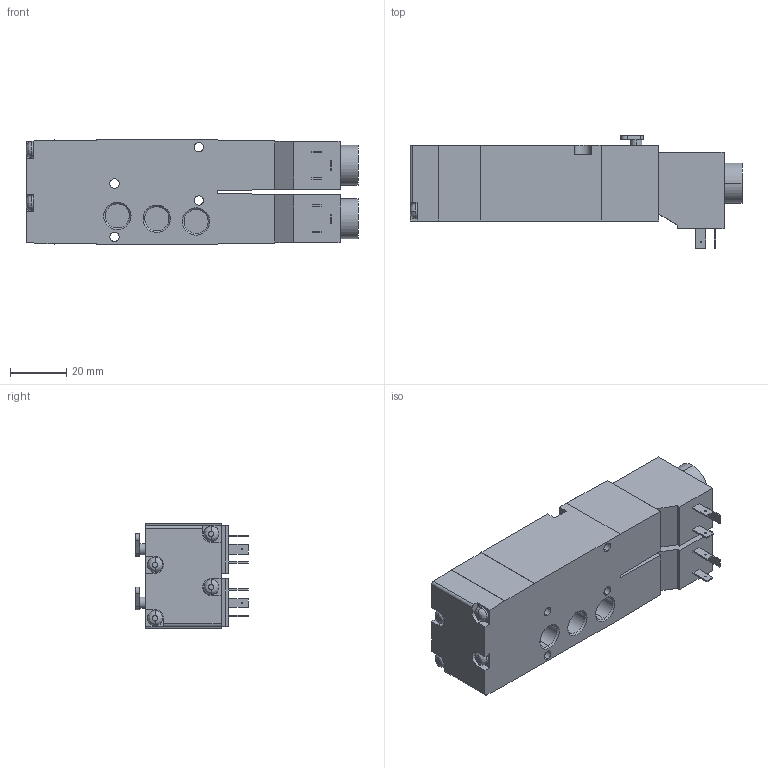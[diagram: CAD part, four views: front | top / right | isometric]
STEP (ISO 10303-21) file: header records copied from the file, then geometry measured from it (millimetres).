
FILE_DESCRIPTION (( 'STEP AP203' ), '1' );
FILE_NAME ('VB5312O-5D-01.STEP', '2021-11-26T10:49:05', ( '' ), ( '' ), 'SwSTEP 2.0', 'SolidWorks 2019', '' );
FILE_SCHEMA (( 'CONFIG_CONTROL_DESIGN' ));
Length unit declared in the file: millimetre
Products named in the file (1): VB5312O-5D-01
Bounding box: 118.1 x 40.1 x 37 mm (x, y, z)
Volume: 106307.3 mm3; surface area: 22051.9 mm2
Topology: 1 solids, 1 shells, 200 faces, 487 edges, 314 vertices
Faces by surface type: plane 107, cylinder 65, cone 20, bspline 8
Entity records: 6154 total; most frequent: CARTESIAN_POINT 1242, DIRECTION 1023, ORIENTED_EDGE 974, EDGE_CURVE 487, AXIS2_PLACEMENT_3D 351, VECTOR 321, LINE 321, VERTEX_POINT 314
